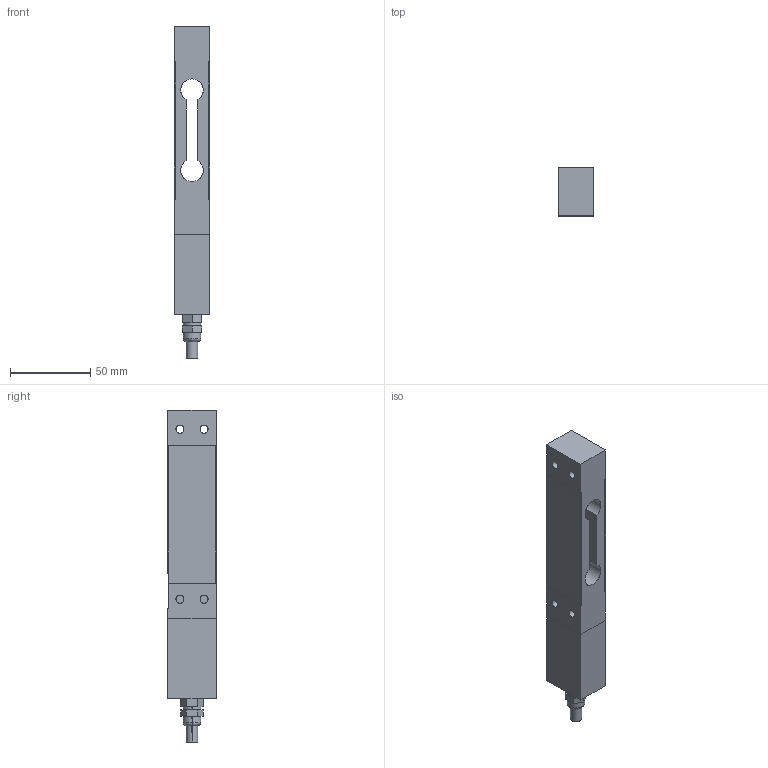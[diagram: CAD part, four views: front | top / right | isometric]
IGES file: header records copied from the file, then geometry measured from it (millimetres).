
Start section: SolidWorks IGES file using analytic representation for surfaces
Global section: file name: O:\16-Entwicklung\Projekte\Kraftsensoren\0207_KT302\01_Mechanik & Gehäuse\01_Solid Works\01_Outline 3D files\Volumenmodell\3D_KT302_30N-500N_komp.IGS; native system: SolidWorks 2012; preprocessor: SolidWorks 2012; author: andreb; date: 121211.144135; units: millimetre
Bounding box: 22.2 x 30 x 207 mm (x, y, z)
Surface area: 26735 mm2 (no closed solid volume)
Topology: 0 solids, 0 shells, 93 faces, 1160 edges, 1158 vertices
Faces by surface type: bspline 52, revolution 41
